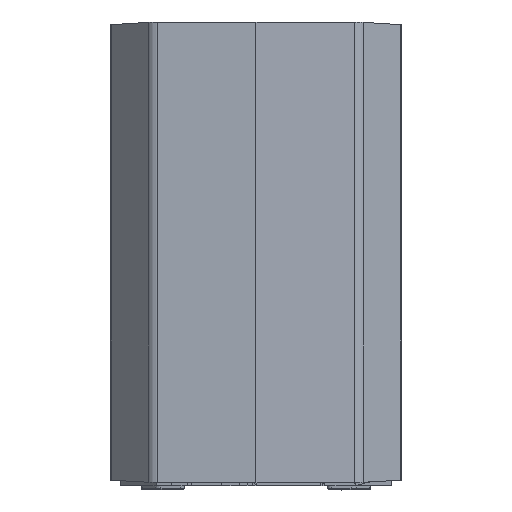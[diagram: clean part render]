
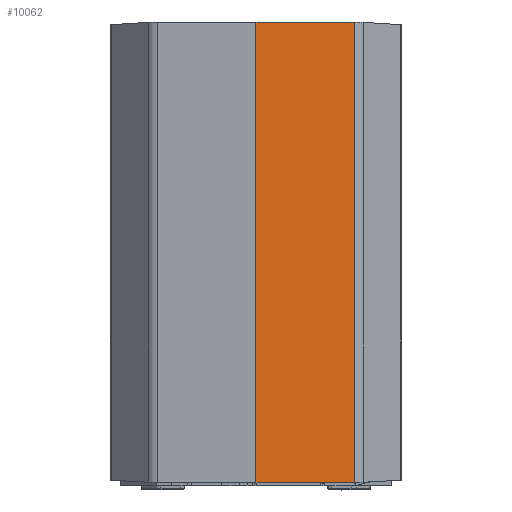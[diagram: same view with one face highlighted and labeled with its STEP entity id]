
A CAD part, top view. The second image highlights one B-rep face of the part: STEP entity #10062.
In plain terms, the highlighted free-form (B-spline) face has degree [3, 1] with [4, 2] control points.
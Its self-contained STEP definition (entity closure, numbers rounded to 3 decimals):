
#103 = VECTOR ( 'NONE', #4886, 1000. ) ;
#324 = FACE_OUTER_BOUND ( 'NONE', #2232, .T. ) ;
#799 = VERTEX_POINT ( 'NONE', #7139 ) ;
#1051 = ORIENTED_EDGE ( 'NONE', *, *, #7089, .T. ) ;
#1206 = CARTESIAN_POINT ( 'NONE',  ( 18.608, -274.499, 56.014 ) ) ;
#1615 = LINE ( 'NONE', #5772, #6648 ) ;
#1628 = CARTESIAN_POINT ( 'NONE',  ( 74.417, 248.479, 54.722 ) ) ;
#1997 = CARTESIAN_POINT ( 'NONE',  ( -0.001, -274.499, 56.014 ) ) ;
#2232 = EDGE_LOOP ( 'NONE', ( #9516, #4002, #1051, #7127 ) ) ;
#2356 = CARTESIAN_POINT ( 'NONE',  ( 93.01, 248.438, 53.948 ) ) ;
#2518 = CARTESIAN_POINT ( 'NONE',  ( 111.591, 251.685, 52.915 ) ) ;
#2671 = CARTESIAN_POINT ( 'NONE',  ( -0.001, 248.547, 56.014 ) ) ;
#3491 = CARTESIAN_POINT ( 'NONE',  ( 37.213, 248.533, 55.756 ) ) ;
#3515 = EDGE_CURVE ( 'NONE', #4510, #9287, #9469, .T. ) ;
#3575 = CARTESIAN_POINT ( 'NONE',  ( 18.608, 248.547, 56.014 ) ) ;
#3750 = CARTESIAN_POINT ( 'NONE',  ( 74.417, -274.431, 54.722 ) ) ;
#4002 = ORIENTED_EDGE ( 'NONE', *, *, #3515, .T. ) ;
#4144 = CARTESIAN_POINT ( 'NONE',  ( 111.591, 248.384, 52.915 ) ) ;
#4510 = VERTEX_POINT ( 'NONE', #4144 ) ;
#4521 = CARTESIAN_POINT ( 'NONE',  ( 111.591, -274.336, 52.915 ) ) ;
#4551 = CARTESIAN_POINT ( 'NONE',  ( 93.01, -274.39, 53.948 ) ) ;
#4710 = CARTESIAN_POINT ( 'NONE',  ( -0.001, 248.547, 56.014 ) ) ;
#4886 = DIRECTION ( 'NONE',  ( 0., -1., 0. ) ) ;
#4915 = CARTESIAN_POINT ( 'NONE',  ( 111.591, 248.384, 52.915 ) ) ;
#4942 = CARTESIAN_POINT ( 'NONE',  ( -0.001, 251.685, 56.014 ) ) ;
#4994 = B_SPLINE_SURFACE_WITH_KNOTS ( 'NONE', 3, 1, ( 
 ( #4942, #7490 ),
 ( #5871, #6591 ),
 ( #8239, #7457 ),
 ( #2518, #6623 ) ),
 .UNSPECIFIED., .F., .F., .F.,
 ( 4, 4 ),
 ( 2, 2 ),
 ( 0.051, 1. ),
 ( 0., 1. ),
 .UNSPECIFIED. ) ;
#5078 = EDGE_CURVE ( 'NONE', #4510, #799, #1615, .T. ) ;
#5772 = CARTESIAN_POINT ( 'NONE',  ( 111.591, 699.441, 52.915 ) ) ;
#5871 = CARTESIAN_POINT ( 'NONE',  ( 37.217, 251.685, 56.014 ) ) ;
#6591 = CARTESIAN_POINT ( 'NONE',  ( 37.217, -277.637, 56.014 ) ) ;
#6623 = CARTESIAN_POINT ( 'NONE',  ( 111.591, -277.637, 52.915 ) ) ;
#6648 = VECTOR ( 'NONE', #8243, 1000. ) ;
#7089 = EDGE_CURVE ( 'NONE', #9287, #7733, #8088, .T. ) ;
#7127 = ORIENTED_EDGE ( 'NONE', *, *, #8716, .F. ) ;
#7139 = CARTESIAN_POINT ( 'NONE',  ( 111.591, -274.336, 52.915 ) ) ;
#7457 = CARTESIAN_POINT ( 'NONE',  ( 74.431, -277.637, 54.98 ) ) ;
#7490 = CARTESIAN_POINT ( 'NONE',  ( -0.001, -277.637, 56.014 ) ) ;
#7733 = VERTEX_POINT ( 'NONE', #9039 ) ;
#7831 = B_SPLINE_CURVE_WITH_KNOTS ( 'NONE', 3,
 ( #4521, #4551, #3750, #9427, #1206, #1997 ),
 .UNSPECIFIED., .F., .F.,
 ( 4, 2, 4 ),
 ( 0., 0.056, 0.112 ),
 .UNSPECIFIED. ) ;
#8088 = LINE ( 'NONE', #8967, #103 ) ;
#8239 = CARTESIAN_POINT ( 'NONE',  ( 74.431, 251.685, 54.98 ) ) ;
#8243 = DIRECTION ( 'NONE',  ( 0., -1., 0. ) ) ;
#8716 = EDGE_CURVE ( 'NONE', #799, #7733, #7831, .T. ) ;
#8967 = CARTESIAN_POINT ( 'NONE',  ( -0.001, 699.441, 56.014 ) ) ;
#9039 = CARTESIAN_POINT ( 'NONE',  ( -0.001, -274.499, 56.014 ) ) ;
#9287 = VERTEX_POINT ( 'NONE', #4710 ) ;
#9427 = CARTESIAN_POINT ( 'NONE',  ( 37.213, -274.485, 55.756 ) ) ;
#9469 = B_SPLINE_CURVE_WITH_KNOTS ( 'NONE', 3,
 ( #4915, #2356, #1628, #3491, #3575, #2671 ),
 .UNSPECIFIED., .F., .F.,
 ( 4, 2, 4 ),
 ( 0., 0.056, 0.112 ),
 .UNSPECIFIED. ) ;
#9516 = ORIENTED_EDGE ( 'NONE', *, *, #5078, .F. ) ;
#10062 = ADVANCED_FACE ( 'NONE', ( #324 ), #4994, .F. ) ;
